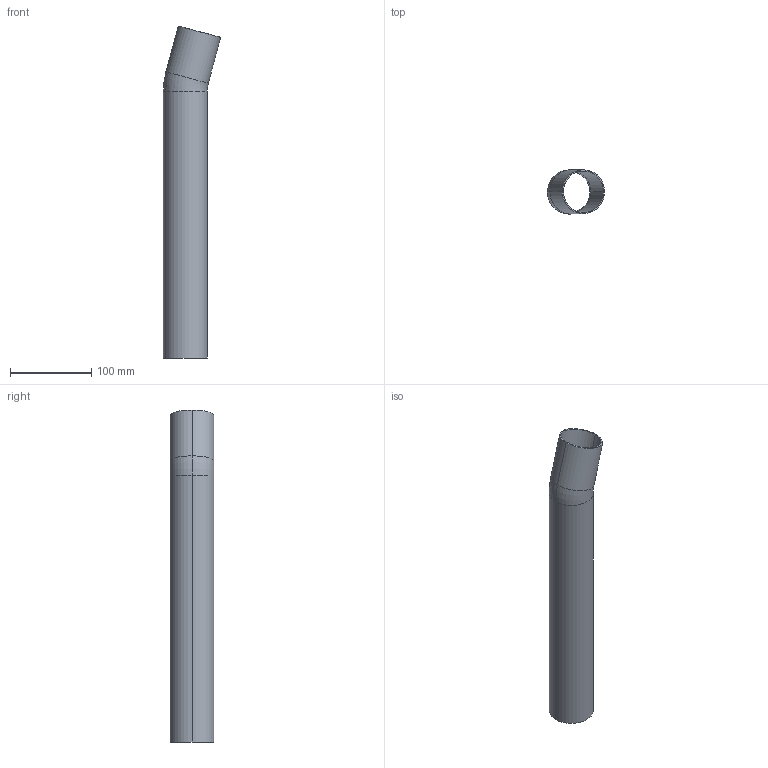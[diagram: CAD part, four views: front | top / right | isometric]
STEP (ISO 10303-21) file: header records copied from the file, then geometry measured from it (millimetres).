
FILE_DESCRIPTION(('OneSpaceDesigner STEP Export'),'2;1');
FILE_NAME('R2722 54x54.stp','2010-06-10T12:48:59',(''),(''),'OneSpace Designer STEP processor for AP214 (Solid Model)','OneSpace Modeling 15.00A 14-Mar-2007 (C) CoCreate Software GmbH','');
FILE_SCHEMA(('AUTOMOTIVE_DESIGN { 1 0 10303 214 1 1 1 1 }'));
Length unit declared in the file: millimetre
Products named in the file (2): R2722_54x54
Assembly tree (1 placements, depth 2):
  R2722_54x54
    R2722_54x54
Bounding box: 70.42 x 54 x 408.71 mm (x, y, z)
Volume: 99925.6 mm3; surface area: 133728.9 mm2
Topology: 1 solids, 1 shells, 14 faces, 30 edges, 18 vertices
Faces by surface type: cylinder 8, torus 4, plane 2
Entity records: 367 total; most frequent: ORIENTED_EDGE 60, DIRECTION 56, CARTESIAN_POINT 50, EDGE_CURVE 30, AXIS2_PLACEMENT_3D 24, VERTEX_POINT 18, EDGE_LOOP 16, CIRCLE 14
